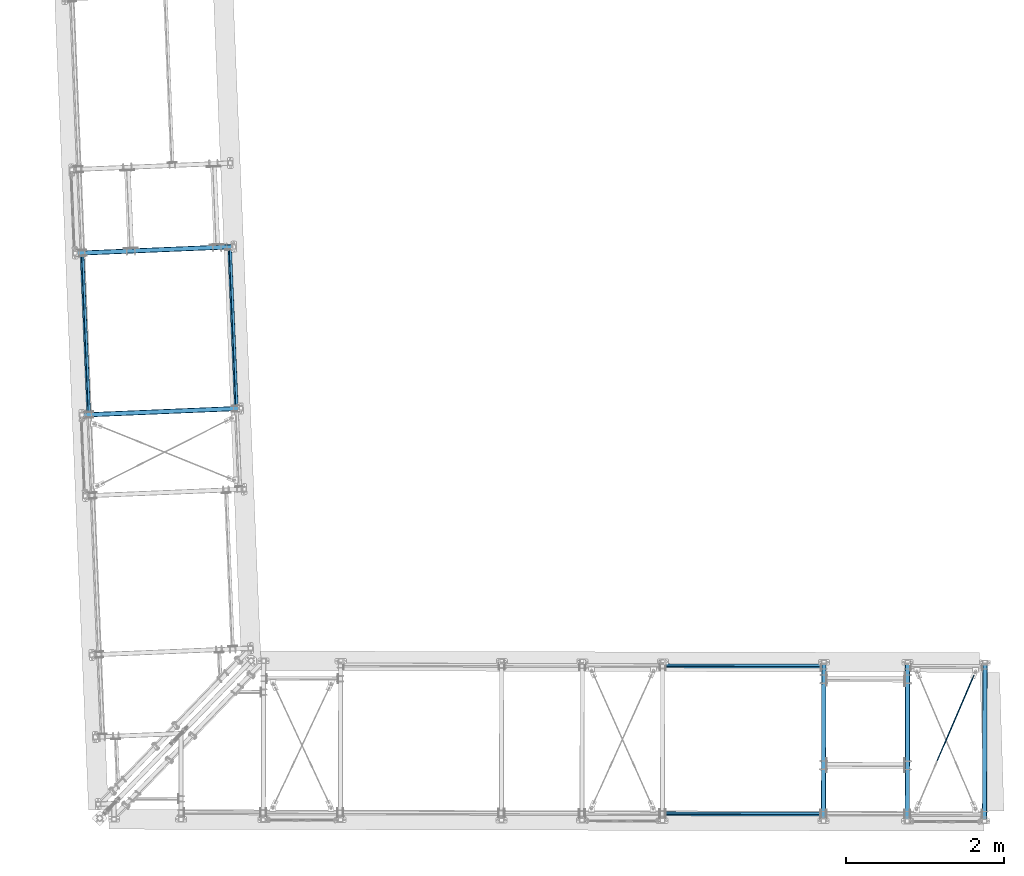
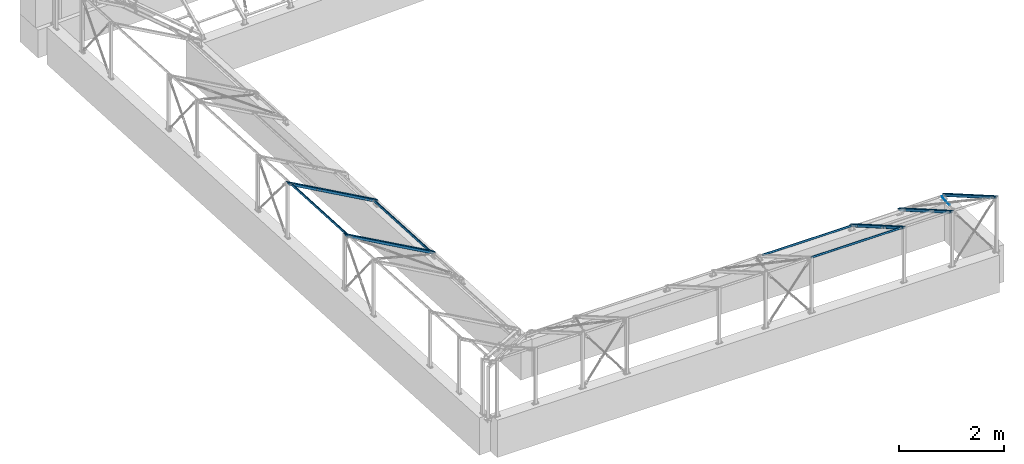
# One storey, part 12 of 288: 8 members, 2 beams, 64 openings.
"""IFC2X3 building model written with IfcOpenShell, lengths in millimetres."""

from ifc_helpers import new_model, entity, si_unit, converted_unit, frame, frame_2d, origin, origin_with_axes, origin_2d, place, context, project, spatial, hollow_rectangle, circle, extrude, clip, halfspace, material, element, save


model = new_model("IFC2X3")

# Units and contexts
model_context = context("Model", 3, precision=1e-09, world=origin_with_axes())
ifc_project = project(units=[si_unit("LENGTHUNIT", "METRE", prefix="MILLI"), si_unit("AREAUNIT", "SQUARE_METRE"), si_unit("VOLUMEUNIT", "CUBIC_METRE"), converted_unit("PLANEANGLEUNIT", "DEGREE", entity("IfcPlaneAngleMeasure", 0.01745329), si_unit("PLANEANGLEUNIT", "RADIAN"), dimensions=[0, 0, 0, 0, 0, 0, 0])], contexts=[model_context])

# Site, building, storey
site_placement = place(None, origin_with_axes())
site = spatial("IfcSite", under=ifc_project, at=site_placement, Name="Remont ?wietlik?w nad MC w NCPP w Opolu", CompositionType="ELEMENT")
building_placement = place(site_placement, origin_with_axes())
building = spatial("IfcBuilding", under=site, at=building_placement, Name="Konstrukcja 1", CompositionType="ELEMENT")
storey_placement = place(building_placement, origin_with_axes())
storey = spatial("IfcBuildingStorey", under=building, at=storey_placement, Name="Default Storey", CompositionType="ELEMENT", Elevation=0.0)

# Member
ifc_material_1 = material(Name="S235")
member_1_placement = place(None, frame((1619.584215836, 5113.592542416, 136.962381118), z_axis=(0.041662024, -0.999131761, -1.7472e-05), x_axis=(0.8652733, 0.036089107, -0.499999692)))
element("IfcMember", 1, at=member_1_placement, inside=storey, material=ifc_material_1, Name="TubeBracing", ObjectType="TubeBracing", context=model_context, shape_type="SweptSolid", body=[
    extrude(hollow_rectangle(XDim=40.0, YDim=40.0, WallThickness=3.0, InnerFilletRadius=3.0, OuterFilletRadius=6.0, at=origin_2d()), origin(), (0.0, 0.0, -1.0), 1970.913964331),
])

# Beam
beam_1_placement = place(None, frame((9020.61862667, 1814.753173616, 138.345494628), z_axis=(0.999997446, -0.002260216, 3.354e-06), x_axis=(0.001959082, 0.866023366, -0.499999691)))
element("IfcBeam", 2, at=beam_1_placement, inside=storey, material=ifc_material_1, Name="TubeBracing", ObjectType="TubeBracing", context=model_context, shape_type="SweptSolid", body=[
    extrude(hollow_rectangle(XDim=40.0, YDim=40.0, WallThickness=3.0, InnerFilletRadius=3.0, OuterFilletRadius=6.0, at=origin_2d()), origin(), (0.0, 0.0, -1.0), 1960.914279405),
])

# Member, openings
member_2_placement = place(None, frame((-492.164486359, 7037.177398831, 1312.426370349), z_axis=(-0.865273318, -0.036088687, 0.499999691), x_axis=(-0.499565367, -0.020835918, -0.866025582)))
member_2 = element("IfcMember", 3, at=member_2_placement, inside=storey, material=ifc_material_1, Name="Horizontal_Beam", ObjectType="Horizontal_Beam", context=model_context, shape_type="Clipping", body=[
    clip(clip(extrude(hollow_rectangle(XDim=60.0, YDim=60.0, WallThickness=3.0, InnerFilletRadius=3.0, OuterFilletRadius=6.0, at=origin_2d()), origin(), (0.0, 0.0, -1.0), 2454.508604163), halfspace(frame((1461.053388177, 7051.573743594, -1561.978022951), z_axis=(-0.500000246, 0.0, 0.866025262), x_axis=(1.22e-07, 1.0, 0.0)), True)), halfspace(frame((581.176641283, 7051.573850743, -1091.480443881), z_axis=(-0.866025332, 1.05e-07, -0.500000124), x_axis=(-1.22e-07, -1.0, 0.0)), True)),
])
opening_1_placement = place(member_2_placement, frame((7.044933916, 26.499732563, -144.777628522), z_axis=(-2.0054e-05, -1.0, 4.2e-07), x_axis=(1.0, -2.0054e-05, 0.0)))
element("IfcOpeningElement", 4, at=opening_1_placement, cuts=member_2, ObjectType="Opening", context=model_context, shape_type="SweptSolid", body=[
    extrude(circle(Radius=7.001, at=frame_2d((-7.001, -4e-09), x_axis=(1.0, 0.0))), origin(), (0.0, 0.0, -1.0), 4.000264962),
])
opening_2_placement = place(member_2_placement, frame((7.043790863, -30.500267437, -144.77760456), z_axis=(-2.0054e-05, -1.0, 4.2e-07), x_axis=(1.0, -2.0054e-05, 0.0)))
element("IfcOpeningElement", 5, at=opening_2_placement, cuts=member_2, ObjectType="Opening", context=model_context, shape_type="SweptSolid", body=[
    extrude(circle(Radius=7.001, at=frame_2d((-7.001, -4e-09), x_axis=(1.0, 0.0))), origin(), (0.0, 0.0, -1.0), 4.000264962),
])
opening_3_placement = place(member_2_placement, frame((7.044933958, 26.499732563, -224.777628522), z_axis=(-2.0054e-05, -1.0, 4.2e-07), x_axis=(1.0, -2.0054e-05, 0.0)))
element("IfcOpeningElement", 6, at=opening_3_placement, cuts=member_2, ObjectType="Opening", context=model_context, shape_type="SweptSolid", body=[
    extrude(circle(Radius=7.001, at=frame_2d((-7.001, -4e-09), x_axis=(1.0, 0.0))), origin(), (0.0, 0.0, -1.0), 4.000264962),
])
opening_4_placement = place(member_2_placement, frame((7.043790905, -30.500267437, -224.77760456), z_axis=(-2.0054e-05, -1.0, 4.2e-07), x_axis=(1.0, -2.0054e-05, 0.0)))
element("IfcOpeningElement", 7, at=opening_4_placement, cuts=member_2, ObjectType="Opening", context=model_context, shape_type="SweptSolid", body=[
    extrude(circle(Radius=7.001, at=frame_2d((-7.001, -4e-09), x_axis=(1.0, 0.0))), origin(), (0.0, 0.0, -1.0), 4.000264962),
])
opening_5_placement = place(member_2_placement, frame((0.063877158, -26.5, -847.814195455), z_axis=(0.0, 1.0, 0.0), x_axis=(-1.0, 0.0, 0.0)))
element("IfcOpeningElement", 8, at=opening_5_placement, cuts=member_2, ObjectType="Opening", context=model_context, shape_type="SweptSolid", body=[
    extrude(circle(Radius=9.001, at=frame_2d((0.0, 9.001), x_axis=(1.0, 0.0))), origin(), (0.0, 0.0, -1.0), 4.0),
])
opening_6_placement = place(member_2_placement, frame((0.063877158, -26.5, -967.814195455), z_axis=(0.0, 1.0, 0.0), x_axis=(-1.0, 0.0, 0.0)))
element("IfcOpeningElement", 9, at=opening_6_placement, cuts=member_2, ObjectType="Opening", context=model_context, shape_type="SweptSolid", body=[
    extrude(circle(Radius=9.001, at=frame_2d((0.0, 9.001), x_axis=(1.0, 0.0))), origin(), (0.0, 0.0, -1.0), 4.0),
])
opening_7_placement = place(member_2_placement, frame((0.063877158, 30.5, -847.814195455), z_axis=(0.0, 1.0, 0.0), x_axis=(-1.0, 0.0, 0.0)))
element("IfcOpeningElement", 10, at=opening_7_placement, cuts=member_2, ObjectType="Opening", context=model_context, shape_type="SweptSolid", body=[
    extrude(circle(Radius=9.001, at=frame_2d((0.0, 9.001), x_axis=(1.0, 0.0))), origin(), (0.0, 0.0, -1.0), 4.0),
])
opening_8_placement = place(member_2_placement, frame((0.063877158, 30.5, -967.814195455), z_axis=(0.0, 1.0, 0.0), x_axis=(-1.0, 0.0, 0.0)))
element("IfcOpeningElement", 11, at=opening_8_placement, cuts=member_2, ObjectType="Opening", context=model_context, shape_type="SweptSolid", body=[
    extrude(circle(Radius=9.001, at=frame_2d((0.0, 9.001), x_axis=(1.0, 0.0))), origin(), (0.0, 0.0, -1.0), 4.0),
])
opening_9_placement = place(member_2_placement, frame((0.044184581, 30.5, -2158.813195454), z_axis=(0.0, -1.0, 0.0), x_axis=(0.0, 0.0, 1.0)))
element("IfcOpeningElement", 12, at=opening_9_placement, cuts=member_2, ObjectType="Opening", context=model_context, shape_type="SweptSolid", body=[
    extrude(circle(Radius=9.001, at=frame_2d((60.0, 0.0), x_axis=(1.0, 0.0))), origin(), (0.0, 0.0, 1.0), 4.0),
])
opening_10_placement = place(member_2_placement, frame((0.044184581, 30.5, -2158.813195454), z_axis=(0.0, -1.0, 0.0), x_axis=(0.0, 0.0, 1.0)))
element("IfcOpeningElement", 13, at=opening_10_placement, cuts=member_2, ObjectType="Opening", context=model_context, shape_type="SweptSolid", body=[
    extrude(circle(Radius=9.001, at=frame_2d((-60.0, 0.0), x_axis=(1.0, 0.0))), origin(), (0.0, 0.0, 1.0), 4.0),
])
opening_11_placement = place(member_2_placement, frame((0.044184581, -26.5, -2158.813195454), z_axis=(0.0, -1.0, 0.0), x_axis=(0.0, 0.0, 1.0)))
element("IfcOpeningElement", 14, at=opening_11_placement, cuts=member_2, ObjectType="Opening", context=model_context, shape_type="SweptSolid", body=[
    extrude(circle(Radius=9.001, at=frame_2d((60.0, 0.0), x_axis=(1.0, 0.0))), origin(), (0.0, 0.0, 1.0), 4.0),
])
opening_12_placement = place(member_2_placement, frame((0.044184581, -26.5, -2158.813195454), z_axis=(0.0, -1.0, 0.0), x_axis=(0.0, 0.0, 1.0)))
element("IfcOpeningElement", 15, at=opening_12_placement, cuts=member_2, ObjectType="Opening", context=model_context, shape_type="SweptSolid", body=[
    extrude(circle(Radius=9.001, at=frame_2d((-60.0, 0.0), x_axis=(1.0, 0.0))), origin(), (0.0, 0.0, 1.0), 4.0),
])
opening_13_placement = place(member_2_placement, frame((3.04424477, 26.5, -2312.551958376), z_axis=(0.0, -1.0, 0.0), x_axis=(1.0, 0.0, 0.0)))
element("IfcOpeningElement", 16, at=opening_13_placement, cuts=member_2, ObjectType="Opening", context=model_context, shape_type="SweptSolid", body=[
    extrude(circle(Radius=7.001, at=frame_2d((0.0, 7.001), x_axis=(1.0, 0.0))), origin(), (0.0, 0.0, -1.0), 4.0),
])
opening_14_placement = place(member_2_placement, frame((3.04424477, 26.5, -2392.551958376), z_axis=(0.0, -1.0, 0.0), x_axis=(1.0, 0.0, 0.0)))
element("IfcOpeningElement", 17, at=opening_14_placement, cuts=member_2, ObjectType="Opening", context=model_context, shape_type="SweptSolid", body=[
    extrude(circle(Radius=7.001, at=frame_2d((0.0, 7.001), x_axis=(1.0, 0.0))), origin(), (0.0, 0.0, -1.0), 4.0),
])
opening_15_placement = place(member_2_placement, frame((3.04424477, -30.5, -2312.551958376), z_axis=(0.0, -1.0, 0.0), x_axis=(1.0, 0.0, 0.0)))
element("IfcOpeningElement", 18, at=opening_15_placement, cuts=member_2, ObjectType="Opening", context=model_context, shape_type="SweptSolid", body=[
    extrude(circle(Radius=7.001, at=frame_2d((0.0, 7.001), x_axis=(1.0, 0.0))), origin(), (0.0, 0.0, -1.0), 4.0),
])
opening_16_placement = place(member_2_placement, frame((3.04424477, -30.5, -2392.551958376), z_axis=(0.0, -1.0, 0.0), x_axis=(1.0, 0.0, 0.0)))
element("IfcOpeningElement", 19, at=opening_16_placement, cuts=member_2, ObjectType="Opening", context=model_context, shape_type="SweptSolid", body=[
    extrude(circle(Radius=7.001, at=frame_2d((0.0, 7.001), x_axis=(1.0, 0.0))), origin(), (0.0, 0.0, -1.0), 4.0),
])

member_3_placement = place(None, frame((-406.757648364, 4990.044254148, 1312.426370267), z_axis=(-0.865273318, -0.036088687, 0.499999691), x_axis=(-0.499565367, -0.020835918, -0.866025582)))
member_3 = element("IfcMember", 20, at=member_3_placement, inside=storey, material=ifc_material_1, Name="Horizontal_Beam", ObjectType="Horizontal_Beam", context=model_context, shape_type="Clipping", body=[
    clip(clip(extrude(hollow_rectangle(XDim=60.0, YDim=60.0, WallThickness=3.0, InnerFilletRadius=3.0, OuterFilletRadius=6.0, at=origin_2d()), origin(), (0.0, 0.0, -1.0), 2454.508604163), halfspace(frame((581.170066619, 5002.659884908, -1091.4694884), z_axis=(-0.866025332, 1.05e-07, -0.500000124), x_axis=(-1.22e-07, -1.0, 0.0)), True)), halfspace(frame((1461.072113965, 5002.659777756, -1561.96706755), z_axis=(-0.500000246, 0.0, 0.866025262), x_axis=(1.22e-07, 1.0, 0.0)), True)),
])
opening_17_placement = place(member_3_placement, frame((3.044244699, 26.5, -2312.551958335), z_axis=(0.0, -1.0, 0.0), x_axis=(1.0, 0.0, 0.0)))
element("IfcOpeningElement", 21, at=opening_17_placement, cuts=member_3, ObjectType="Opening", context=model_context, shape_type="SweptSolid", body=[
    extrude(circle(Radius=7.001, at=frame_2d((0.0, 7.001), x_axis=(1.0, 0.0))), origin(), (0.0, 0.0, -1.0), 4.0),
])
opening_18_placement = place(member_3_placement, frame((3.044244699, 26.5, -2392.551958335), z_axis=(0.0, -1.0, 0.0), x_axis=(1.0, 0.0, 0.0)))
element("IfcOpeningElement", 22, at=opening_18_placement, cuts=member_3, ObjectType="Opening", context=model_context, shape_type="SweptSolid", body=[
    extrude(circle(Radius=7.001, at=frame_2d((0.0, 7.001), x_axis=(1.0, 0.0))), origin(), (0.0, 0.0, -1.0), 4.0),
])
opening_19_placement = place(member_3_placement, frame((3.044244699, -30.5, -2312.551958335), z_axis=(0.0, -1.0, 0.0), x_axis=(1.0, 0.0, 0.0)))
element("IfcOpeningElement", 23, at=opening_19_placement, cuts=member_3, ObjectType="Opening", context=model_context, shape_type="SweptSolid", body=[
    extrude(circle(Radius=7.001, at=frame_2d((0.0, 7.001), x_axis=(1.0, 0.0))), origin(), (0.0, 0.0, -1.0), 4.0),
])
opening_20_placement = place(member_3_placement, frame((3.044244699, -30.5, -2392.551958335), z_axis=(0.0, -1.0, 0.0), x_axis=(1.0, 0.0, 0.0)))
element("IfcOpeningElement", 24, at=opening_20_placement, cuts=member_3, ObjectType="Opening", context=model_context, shape_type="SweptSolid", body=[
    extrude(circle(Radius=7.001, at=frame_2d((0.0, 7.001), x_axis=(1.0, 0.0))), origin(), (0.0, 0.0, -1.0), 4.0),
])
opening_21_placement = place(member_3_placement, frame((7.044933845, 26.499732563, -144.777628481), z_axis=(-2.0054e-05, -1.0, 4.2e-07), x_axis=(1.0, -2.0054e-05, 0.0)))
element("IfcOpeningElement", 25, at=opening_21_placement, cuts=member_3, ObjectType="Opening", context=model_context, shape_type="SweptSolid", body=[
    extrude(circle(Radius=7.001, at=frame_2d((-7.001, -4e-09), x_axis=(1.0, 0.0))), origin(), (0.0, 0.0, -1.0), 4.000264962),
])
opening_22_placement = place(member_3_placement, frame((7.043790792, -30.500267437, -144.777604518), z_axis=(-2.0054e-05, -1.0, 4.2e-07), x_axis=(1.0, -2.0054e-05, 0.0)))
element("IfcOpeningElement", 26, at=opening_22_placement, cuts=member_3, ObjectType="Opening", context=model_context, shape_type="SweptSolid", body=[
    extrude(circle(Radius=7.001, at=frame_2d((-7.001, -4e-09), x_axis=(1.0, 0.0))), origin(), (0.0, 0.0, -1.0), 4.000264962),
])
opening_23_placement = place(member_3_placement, frame((7.044933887, 26.499732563, -224.777628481), z_axis=(-2.0054e-05, -1.0, 4.2e-07), x_axis=(1.0, -2.0054e-05, 0.0)))
element("IfcOpeningElement", 27, at=opening_23_placement, cuts=member_3, ObjectType="Opening", context=model_context, shape_type="SweptSolid", body=[
    extrude(circle(Radius=7.001, at=frame_2d((-7.001, -4e-09), x_axis=(1.0, 0.0))), origin(), (0.0, 0.0, -1.0), 4.000264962),
])
opening_24_placement = place(member_3_placement, frame((7.043790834, -30.500267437, -224.777604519), z_axis=(-2.0054e-05, -1.0, 4.2e-07), x_axis=(1.0, -2.0054e-05, 0.0)))
element("IfcOpeningElement", 28, at=opening_24_placement, cuts=member_3, ObjectType="Opening", context=model_context, shape_type="SweptSolid", body=[
    extrude(circle(Radius=7.001, at=frame_2d((-7.001, -4e-09), x_axis=(1.0, 0.0))), origin(), (0.0, 0.0, -1.0), 4.000264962),
])

member_4_placement = place(None, frame((9055.018282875, -218.898947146, 1312.426370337), z_axis=(-0.001959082, -0.866023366, 0.499999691), x_axis=(-0.001130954, -0.499998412, -0.866025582)))
member_4 = element("IfcMember", 29, at=member_4_placement, inside=storey, material=ifc_material_1, Name="Horizontal_Beam", ObjectType="Horizontal_Beam", context=model_context, shape_type="Clipping", body=[
    clip(clip(extrude(hollow_rectangle(XDim=60.0, YDim=60.0, WallThickness=3.0, InnerFilletRadius=3.0, OuterFilletRadius=6.0, at=origin_2d()), origin(), (0.0, 0.0, -1.0), 2454.508604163), halfspace(frame((1461.105317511, -9055.490474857, -1561.946909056), z_axis=(-0.500000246, 0.0, 0.866025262), x_axis=(1.22e-07, 1.0, 0.0)), True)), halfspace(frame((581.15671618, -9055.490367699, -1091.44932998), z_axis=(-0.866025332, 1.05e-07, -0.500000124), x_axis=(-1.22e-07, -1.0, 0.0)), True)),
])
opening_25_placement = place(member_4_placement, frame((-0.000146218, 26.5, -151.853792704), z_axis=(0.0, -1.0, 0.0), x_axis=(1.0, 0.0, 0.0)))
element("IfcOpeningElement", 30, at=opening_25_placement, cuts=member_4, ObjectType="Opening", context=model_context, shape_type="SweptSolid", body=[
    extrude(circle(Radius=7.001, at=frame_2d((0.0, 7.001), x_axis=(1.0, 0.0))), origin(), (0.0, 0.0, -1.0), 4.0),
])
opening_26_placement = place(member_4_placement, frame((-0.000146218, 26.5, -231.853792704), z_axis=(0.0, -1.0, 0.0), x_axis=(1.0, 0.0, 0.0)))
element("IfcOpeningElement", 31, at=opening_26_placement, cuts=member_4, ObjectType="Opening", context=model_context, shape_type="SweptSolid", body=[
    extrude(circle(Radius=7.001, at=frame_2d((0.0, 7.001), x_axis=(1.0, 0.0))), origin(), (0.0, 0.0, -1.0), 4.0),
])
opening_27_placement = place(member_4_placement, frame((-0.000146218, -30.5, -151.853792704), z_axis=(0.0, -1.0, 0.0), x_axis=(1.0, 0.0, 0.0)))
element("IfcOpeningElement", 32, at=opening_27_placement, cuts=member_4, ObjectType="Opening", context=model_context, shape_type="SweptSolid", body=[
    extrude(circle(Radius=7.001, at=frame_2d((0.0, 7.001), x_axis=(1.0, 0.0))), origin(), (0.0, 0.0, -1.0), 4.0),
])
opening_28_placement = place(member_4_placement, frame((-0.000146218, -30.5, -231.853792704), z_axis=(0.0, -1.0, 0.0), x_axis=(1.0, 0.0, 0.0)))
element("IfcOpeningElement", 33, at=opening_28_placement, cuts=member_4, ObjectType="Opening", context=model_context, shape_type="SweptSolid", body=[
    extrude(circle(Radius=7.001, at=frame_2d((0.0, 7.001), x_axis=(1.0, 0.0))), origin(), (0.0, 0.0, -1.0), 4.0),
])
opening_29_placement = place(member_4_placement, frame((-0.000146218, 26.5, -2315.163938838), z_axis=(0.0, -1.0, 0.0), x_axis=(1.0, 0.0, 0.0)))
element("IfcOpeningElement", 34, at=opening_29_placement, cuts=member_4, ObjectType="Opening", context=model_context, shape_type="SweptSolid", body=[
    extrude(circle(Radius=7.001, at=frame_2d((0.0, 7.001), x_axis=(1.0, 0.0))), origin(), (0.0, 0.0, -1.0), 4.0),
])
opening_30_placement = place(member_4_placement, frame((-0.000146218, 26.5, -2395.163938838), z_axis=(0.0, -1.0, 0.0), x_axis=(1.0, 0.0, 0.0)))
element("IfcOpeningElement", 35, at=opening_30_placement, cuts=member_4, ObjectType="Opening", context=model_context, shape_type="SweptSolid", body=[
    extrude(circle(Radius=7.001, at=frame_2d((0.0, 7.001), x_axis=(1.0, 0.0))), origin(), (0.0, 0.0, -1.0), 4.0),
])
opening_31_placement = place(member_4_placement, frame((-0.000146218, -30.5, -2315.163938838), z_axis=(0.0, -1.0, 0.0), x_axis=(1.0, 0.0, 0.0)))
element("IfcOpeningElement", 36, at=opening_31_placement, cuts=member_4, ObjectType="Opening", context=model_context, shape_type="SweptSolid", body=[
    extrude(circle(Radius=7.001, at=frame_2d((0.0, 7.001), x_axis=(1.0, 0.0))), origin(), (0.0, 0.0, -1.0), 4.0),
])
opening_32_placement = place(member_4_placement, frame((-0.000146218, -30.5, -2395.163938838), z_axis=(0.0, -1.0, 0.0), x_axis=(1.0, 0.0, 0.0)))
element("IfcOpeningElement", 37, at=opening_32_placement, cuts=member_4, ObjectType="Opening", context=model_context, shape_type="SweptSolid", body=[
    extrude(circle(Radius=7.001, at=frame_2d((0.0, 7.001), x_axis=(1.0, 0.0))), origin(), (0.0, 0.0, -1.0), 4.0),
])
opening_33_placement = place(member_4_placement, frame((-0.000146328, 26.5, -847.853792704), z_axis=(0.0, -1.0, 0.0), x_axis=(1.0, 0.0, 0.0)))
element("IfcOpeningElement", 38, at=opening_33_placement, cuts=member_4, ObjectType="Opening", context=model_context, shape_type="SweptSolid", body=[
    extrude(circle(Radius=9.001, at=frame_2d((0.0, 9.001), x_axis=(1.0, 0.0))), origin(), (0.0, 0.0, -1.0), 4.0),
])
opening_34_placement = place(member_4_placement, frame((-0.000146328, 26.5, -967.853792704), z_axis=(0.0, -1.0, 0.0), x_axis=(1.0, 0.0, 0.0)))
element("IfcOpeningElement", 39, at=opening_34_placement, cuts=member_4, ObjectType="Opening", context=model_context, shape_type="SweptSolid", body=[
    extrude(circle(Radius=9.001, at=frame_2d((0.0, 9.001), x_axis=(1.0, 0.0))), origin(), (0.0, 0.0, -1.0), 4.0),
])
opening_35_placement = place(member_4_placement, frame((-0.000146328, -30.5, -847.853792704), z_axis=(0.0, -1.0, 0.0), x_axis=(1.0, 0.0, 0.0)))
element("IfcOpeningElement", 40, at=opening_35_placement, cuts=member_4, ObjectType="Opening", context=model_context, shape_type="SweptSolid", body=[
    extrude(circle(Radius=9.001, at=frame_2d((0.0, 9.001), x_axis=(1.0, 0.0))), origin(), (0.0, 0.0, -1.0), 4.0),
])
opening_36_placement = place(member_4_placement, frame((-0.000146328, -30.5, -967.853792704), z_axis=(0.0, -1.0, 0.0), x_axis=(1.0, 0.0, 0.0)))
element("IfcOpeningElement", 41, at=opening_36_placement, cuts=member_4, ObjectType="Opening", context=model_context, shape_type="SweptSolid", body=[
    extrude(circle(Radius=9.001, at=frame_2d((0.0, 9.001), x_axis=(1.0, 0.0))), origin(), (0.0, 0.0, -1.0), 4.0),
])
opening_37_placement = place(member_4_placement, frame((-0.000146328, 26.5, -2107.853792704), z_axis=(0.0, -1.0, 0.0), x_axis=(1.0, 0.0, 0.0)))
element("IfcOpeningElement", 42, at=opening_37_placement, cuts=member_4, ObjectType="Opening", context=model_context, shape_type="SweptSolid", body=[
    extrude(circle(Radius=9.001, at=frame_2d((0.0, 9.001), x_axis=(1.0, 0.0))), origin(), (0.0, 0.0, -1.0), 4.0),
])
opening_38_placement = place(member_4_placement, frame((-0.000146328, 26.5, -2227.853792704), z_axis=(0.0, -1.0, 0.0), x_axis=(1.0, 0.0, 0.0)))
element("IfcOpeningElement", 43, at=opening_38_placement, cuts=member_4, ObjectType="Opening", context=model_context, shape_type="SweptSolid", body=[
    extrude(circle(Radius=9.001, at=frame_2d((0.0, 9.001), x_axis=(1.0, 0.0))), origin(), (0.0, 0.0, -1.0), 4.0),
])
opening_39_placement = place(member_4_placement, frame((-0.000146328, -30.5, -2107.853792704), z_axis=(0.0, -1.0, 0.0), x_axis=(1.0, 0.0, 0.0)))
element("IfcOpeningElement", 44, at=opening_39_placement, cuts=member_4, ObjectType="Opening", context=model_context, shape_type="SweptSolid", body=[
    extrude(circle(Radius=9.001, at=frame_2d((0.0, 9.001), x_axis=(1.0, 0.0))), origin(), (0.0, 0.0, -1.0), 4.0),
])
opening_40_placement = place(member_4_placement, frame((-0.000146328, -30.5, -2227.853792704), z_axis=(0.0, -1.0, 0.0), x_axis=(1.0, 0.0, 0.0)))
element("IfcOpeningElement", 45, at=opening_40_placement, cuts=member_4, ObjectType="Opening", context=model_context, shape_type="SweptSolid", body=[
    extrude(circle(Radius=9.001, at=frame_2d((0.0, 9.001), x_axis=(1.0, 0.0))), origin(), (0.0, 0.0, -1.0), 4.0),
])

member_5_placement = place(None, frame((10115.015571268, -221.296570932, 1312.426370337), z_axis=(-0.001959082, -0.866023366, 0.499999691), x_axis=(-0.001130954, -0.499998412, -0.866025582)))
member_5 = element("IfcMember", 46, at=member_5_placement, inside=storey, material=ifc_material_1, Name="Horizontal_Beam", ObjectType="Horizontal_Beam", context=model_context, shape_type="Clipping", body=[
    clip(clip(extrude(hollow_rectangle(XDim=60.0, YDim=60.0, WallThickness=3.0, InnerFilletRadius=3.0, OuterFilletRadius=6.0, at=origin_2d()), origin(), (0.0, 0.0, -1.0), 2454.508604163), halfspace(frame((1461.105382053, -10115.490474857, -1561.946797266), z_axis=(-0.500000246, 0.0, 0.866025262), x_axis=(1.22e-07, 1.0, 0.0)), True)), halfspace(frame((581.156522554, -10115.490367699, -1091.449218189), z_axis=(-0.866025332, 1.05e-07, -0.500000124), x_axis=(-1.22e-07, -1.0, 0.0)), True)),
])
opening_41_placement = place(member_5_placement, frame((-1.267996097, 30.520143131, -898.850466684), z_axis=(0.002261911, -0.999997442, -3.751e-06), x_axis=(0.0, -3.751e-06, 1.0)))
element("IfcOpeningElement", 47, at=opening_41_placement, cuts=member_5, ObjectType="Opening", context=model_context, shape_type="SweptSolid", body=[
    extrude(circle(Radius=9.001, at=frame_2d((60.0, 0.0), x_axis=(1.0, 0.0))), origin(), (0.0, 0.0, 1.0), 4.038960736),
])
opening_42_placement = place(member_5_placement, frame((-1.267996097, 30.520143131, -898.850466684), z_axis=(0.002261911, -0.999997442, -3.751e-06), x_axis=(0.0, -3.751e-06, 1.0)))
element("IfcOpeningElement", 48, at=opening_42_placement, cuts=member_5, ObjectType="Opening", context=model_context, shape_type="SweptSolid", body=[
    extrude(circle(Radius=9.001, at=frame_2d((-60.0, 0.0), x_axis=(1.0, 0.0))), origin(), (0.0, 0.0, 1.0), 4.038960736),
])
opening_43_placement = place(member_5_placement, frame((-1.139066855, -26.479856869, -898.850680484), z_axis=(0.002261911, -0.999997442, -3.751e-06), x_axis=(0.0, -3.751e-06, 1.0)))
element("IfcOpeningElement", 49, at=opening_43_placement, cuts=member_5, ObjectType="Opening", context=model_context, shape_type="SweptSolid", body=[
    extrude(circle(Radius=9.001, at=frame_2d((60.0, 0.0), x_axis=(1.0, 0.0))), origin(), (0.0, 0.0, 1.0), 4.038960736),
])
opening_44_placement = place(member_5_placement, frame((-1.139066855, -26.479856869, -898.850680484), z_axis=(0.002261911, -0.999997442, -3.751e-06), x_axis=(0.0, -3.751e-06, 1.0)))
element("IfcOpeningElement", 50, at=opening_44_placement, cuts=member_5, ObjectType="Opening", context=model_context, shape_type="SweptSolid", body=[
    extrude(circle(Radius=9.001, at=frame_2d((-60.0, 0.0), x_axis=(1.0, 0.0))), origin(), (0.0, 0.0, 1.0), 4.038960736),
])
opening_45_placement = place(member_5_placement, frame((-1.267996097, 30.520143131, -2158.850466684), z_axis=(0.002261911, -0.999997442, -3.751e-06), x_axis=(0.0, -3.751e-06, 1.0)))
element("IfcOpeningElement", 51, at=opening_45_placement, cuts=member_5, ObjectType="Opening", context=model_context, shape_type="SweptSolid", body=[
    extrude(circle(Radius=9.001, at=frame_2d((60.0, 0.0), x_axis=(1.0, 0.0))), origin(), (0.0, 0.0, 1.0), 4.038960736),
])
opening_46_placement = place(member_5_placement, frame((-1.267996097, 30.520143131, -2158.850466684), z_axis=(0.002261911, -0.999997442, -3.751e-06), x_axis=(0.0, -3.751e-06, 1.0)))
element("IfcOpeningElement", 52, at=opening_46_placement, cuts=member_5, ObjectType="Opening", context=model_context, shape_type="SweptSolid", body=[
    extrude(circle(Radius=9.001, at=frame_2d((-60.0, 0.0), x_axis=(1.0, 0.0))), origin(), (0.0, 0.0, 1.0), 4.038960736),
])
opening_47_placement = place(member_5_placement, frame((-1.139066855, -26.479856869, -2158.850680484), z_axis=(0.002261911, -0.999997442, -3.751e-06), x_axis=(0.0, -3.751e-06, 1.0)))
element("IfcOpeningElement", 53, at=opening_47_placement, cuts=member_5, ObjectType="Opening", context=model_context, shape_type="SweptSolid", body=[
    extrude(circle(Radius=9.001, at=frame_2d((60.0, 0.0), x_axis=(1.0, 0.0))), origin(), (0.0, 0.0, 1.0), 4.038960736),
])
opening_48_placement = place(member_5_placement, frame((-1.139066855, -26.479856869, -2158.850680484), z_axis=(0.002261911, -0.999997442, -3.751e-06), x_axis=(0.0, -3.751e-06, 1.0)))
element("IfcOpeningElement", 54, at=opening_48_placement, cuts=member_5, ObjectType="Opening", context=model_context, shape_type="SweptSolid", body=[
    extrude(circle(Radius=9.001, at=frame_2d((-60.0, 0.0), x_axis=(1.0, 0.0))), origin(), (0.0, 0.0, 1.0), 4.038960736),
])
opening_49_placement = place(member_5_placement, frame((-0.000146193, 30.5, -184.886983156), z_axis=(0.0, -1.0, 0.0), x_axis=(0.0, 0.0, 1.0)))
element("IfcOpeningElement", 55, at=opening_49_placement, cuts=member_5, ObjectType="Opening", context=model_context, shape_type="SweptSolid", body=[
    extrude(circle(Radius=7.001, at=frame_2d((40.0, 0.0), x_axis=(1.0, 0.0))), origin(), (0.0, 0.0, 1.0), 4.0),
])
opening_50_placement = place(member_5_placement, frame((-0.000146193, 30.5, -184.886983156), z_axis=(0.0, -1.0, 0.0), x_axis=(0.0, 0.0, 1.0)))
element("IfcOpeningElement", 56, at=opening_50_placement, cuts=member_5, ObjectType="Opening", context=model_context, shape_type="SweptSolid", body=[
    extrude(circle(Radius=7.001, at=frame_2d((-40.0, 0.0), x_axis=(1.0, 0.0))), origin(), (0.0, 0.0, 1.0), 4.0),
])
opening_51_placement = place(member_5_placement, frame((-0.000146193, -26.5, -184.886983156), z_axis=(0.0, -1.0, 0.0), x_axis=(0.0, 0.0, 1.0)))
element("IfcOpeningElement", 57, at=opening_51_placement, cuts=member_5, ObjectType="Opening", context=model_context, shape_type="SweptSolid", body=[
    extrude(circle(Radius=7.001, at=frame_2d((40.0, 0.0), x_axis=(1.0, 0.0))), origin(), (0.0, 0.0, 1.0), 4.0),
])
opening_52_placement = place(member_5_placement, frame((-0.000146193, -26.5, -184.886983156), z_axis=(0.0, -1.0, 0.0), x_axis=(0.0, 0.0, 1.0)))
element("IfcOpeningElement", 58, at=opening_52_placement, cuts=member_5, ObjectType="Opening", context=model_context, shape_type="SweptSolid", body=[
    extrude(circle(Radius=7.001, at=frame_2d((-40.0, 0.0), x_axis=(1.0, 0.0))), origin(), (0.0, 0.0, 1.0), 4.0),
])
opening_53_placement = place(member_5_placement, frame((-0.000146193, 30.5, -2348.19712929), z_axis=(0.0, -1.0, 0.0), x_axis=(0.0, 0.0, 1.0)))
element("IfcOpeningElement", 59, at=opening_53_placement, cuts=member_5, ObjectType="Opening", context=model_context, shape_type="SweptSolid", body=[
    extrude(circle(Radius=7.001, at=frame_2d((40.0, 0.0), x_axis=(1.0, 0.0))), origin(), (0.0, 0.0, 1.0), 4.0),
])
opening_54_placement = place(member_5_placement, frame((-0.000146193, 30.5, -2348.19712929), z_axis=(0.0, -1.0, 0.0), x_axis=(0.0, 0.0, 1.0)))
element("IfcOpeningElement", 60, at=opening_54_placement, cuts=member_5, ObjectType="Opening", context=model_context, shape_type="SweptSolid", body=[
    extrude(circle(Radius=7.001, at=frame_2d((-40.0, 0.0), x_axis=(1.0, 0.0))), origin(), (0.0, 0.0, 1.0), 4.0),
])
opening_55_placement = place(member_5_placement, frame((-0.000146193, -26.5, -2348.19712929), z_axis=(0.0, -1.0, 0.0), x_axis=(0.0, 0.0, 1.0)))
element("IfcOpeningElement", 61, at=opening_55_placement, cuts=member_5, ObjectType="Opening", context=model_context, shape_type="SweptSolid", body=[
    extrude(circle(Radius=7.001, at=frame_2d((40.0, 0.0), x_axis=(1.0, 0.0))), origin(), (0.0, 0.0, 1.0), 4.0),
])
opening_56_placement = place(member_5_placement, frame((-0.000146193, -26.5, -2348.19712929), z_axis=(0.0, -1.0, 0.0), x_axis=(0.0, 0.0, 1.0)))
element("IfcOpeningElement", 62, at=opening_56_placement, cuts=member_5, ObjectType="Opening", context=model_context, shape_type="SweptSolid", body=[
    extrude(circle(Radius=7.001, at=frame_2d((-40.0, 0.0), x_axis=(1.0, 0.0))), origin(), (0.0, 0.0, 1.0), 4.0),
])

member_6_placement = place(None, frame((11093.927381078, -223.495490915, 1312.426370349), z_axis=(-0.001959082, -0.866023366, 0.499999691), x_axis=(-0.001130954, -0.499998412, -0.866025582)))
member_6 = element("IfcMember", 63, at=member_6_placement, inside=storey, material=ifc_material_1, Name="Horizontal_Beam", ObjectType="Horizontal_Beam", context=model_context, shape_type="Clipping", body=[
    clip(clip(extrude(hollow_rectangle(XDim=60.0, YDim=60.0, WallThickness=3.0, InnerFilletRadius=3.0, OuterFilletRadius=6.0, at=origin_2d()), origin(), (0.0, 0.0, -1.0), 2454.508604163), halfspace(frame((1461.116913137, -11094.404754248, -1561.940070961), z_axis=(-0.500000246, 0.0, 0.866025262), x_axis=(1.22e-07, 1.0, 0.0)), True)), halfspace(frame((581.152519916, -11094.404647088, -1091.442491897), z_axis=(-0.866025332, 1.05e-07, -0.500000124), x_axis=(-1.22e-07, -1.0, 0.0)), True)),
])
opening_57_placement = place(member_6_placement, frame((-0.000146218, 26.5, -2315.198129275), z_axis=(0.0, -1.0, 0.0), x_axis=(1.0, 0.0, 0.0)))
element("IfcOpeningElement", 64, at=opening_57_placement, cuts=member_6, ObjectType="Opening", context=model_context, shape_type="SweptSolid", body=[
    extrude(circle(Radius=7.001, at=frame_2d((0.0, 7.001), x_axis=(1.0, 0.0))), origin(), (0.0, 0.0, -1.0), 4.0),
])
opening_58_placement = place(member_6_placement, frame((-0.000146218, 26.5, -2395.198129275), z_axis=(0.0, -1.0, 0.0), x_axis=(1.0, 0.0, 0.0)))
element("IfcOpeningElement", 65, at=opening_58_placement, cuts=member_6, ObjectType="Opening", context=model_context, shape_type="SweptSolid", body=[
    extrude(circle(Radius=7.001, at=frame_2d((0.0, 7.001), x_axis=(1.0, 0.0))), origin(), (0.0, 0.0, -1.0), 4.0),
])
opening_59_placement = place(member_6_placement, frame((-0.000146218, -30.5, -2315.198129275), z_axis=(0.0, -1.0, 0.0), x_axis=(1.0, 0.0, 0.0)))
element("IfcOpeningElement", 66, at=opening_59_placement, cuts=member_6, ObjectType="Opening", context=model_context, shape_type="SweptSolid", body=[
    extrude(circle(Radius=7.001, at=frame_2d((0.0, 7.001), x_axis=(1.0, 0.0))), origin(), (0.0, 0.0, -1.0), 4.0),
])
opening_60_placement = place(member_6_placement, frame((-0.000146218, -30.5, -2395.198129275), z_axis=(0.0, -1.0, 0.0), x_axis=(1.0, 0.0, 0.0)))
element("IfcOpeningElement", 67, at=opening_60_placement, cuts=member_6, ObjectType="Opening", context=model_context, shape_type="SweptSolid", body=[
    extrude(circle(Radius=7.001, at=frame_2d((0.0, 7.001), x_axis=(1.0, 0.0))), origin(), (0.0, 0.0, -1.0), 4.0),
])
opening_61_placement = place(member_6_placement, frame((-0.000146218, 26.5, -151.887983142), z_axis=(0.0, -1.0, 0.0), x_axis=(1.0, 0.0, 0.0)))
element("IfcOpeningElement", 68, at=opening_61_placement, cuts=member_6, ObjectType="Opening", context=model_context, shape_type="SweptSolid", body=[
    extrude(circle(Radius=7.001, at=frame_2d((0.0, 7.001), x_axis=(1.0, 0.0))), origin(), (0.0, 0.0, -1.0), 4.0),
])
opening_62_placement = place(member_6_placement, frame((-0.000146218, 26.5, -231.887983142), z_axis=(0.0, -1.0, 0.0), x_axis=(1.0, 0.0, 0.0)))
element("IfcOpeningElement", 69, at=opening_62_placement, cuts=member_6, ObjectType="Opening", context=model_context, shape_type="SweptSolid", body=[
    extrude(circle(Radius=7.001, at=frame_2d((0.0, 7.001), x_axis=(1.0, 0.0))), origin(), (0.0, 0.0, -1.0), 4.0),
])
opening_63_placement = place(member_6_placement, frame((-0.000146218, -30.5, -151.887983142), z_axis=(0.0, -1.0, 0.0), x_axis=(1.0, 0.0, 0.0)))
element("IfcOpeningElement", 70, at=opening_63_placement, cuts=member_6, ObjectType="Opening", context=model_context, shape_type="SweptSolid", body=[
    extrude(circle(Radius=7.001, at=frame_2d((0.0, 7.001), x_axis=(1.0, 0.0))), origin(), (0.0, 0.0, -1.0), 4.0),
])
opening_64_placement = place(member_6_placement, frame((-0.000146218, -30.5, -231.887983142), z_axis=(0.0, -1.0, 0.0), x_axis=(1.0, 0.0, 0.0)))
element("IfcOpeningElement", 71, at=opening_64_placement, cuts=member_6, ObjectType="Opening", context=model_context, shape_type="SweptSolid", body=[
    extrude(circle(Radius=7.001, at=frame_2d((0.0, 7.001), x_axis=(1.0, 0.0))), origin(), (0.0, 0.0, -1.0), 4.0),
])

# Member
member_7_placement = place(None, frame((-248.576371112, 5035.675605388, 1219.946394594), z_axis=(0.041662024, -0.999131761, -1.7472e-05), x_axis=(0.8652733, 0.036089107, -0.499999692)))
element("IfcMember", 72, at=member_7_placement, inside=storey, material=ifc_material_1, Name="TubeBracing", ObjectType="TubeBracing", context=model_context, shape_type="SweptSolid", body=[
    extrude(hollow_rectangle(XDim=40.0, YDim=40.0, WallThickness=3.0, InnerFilletRadius=3.0, OuterFilletRadius=6.0, at=origin_2d()), origin(), (0.0, 0.0, -1.0), 1970.913964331),
])

# Beam
beam_2_placement = place(None, frame((9016.380524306, -58.723960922, 1219.999900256), z_axis=(0.999997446, -0.002260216, 3.354e-06), x_axis=(0.001959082, 0.866023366, -0.499999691)))
element("IfcBeam", 73, at=beam_2_placement, inside=storey, material=ifc_material_1, Name="TubeBracing", ObjectType="TubeBracing", context=model_context, shape_type="SweptSolid", body=[
    extrude(hollow_rectangle(XDim=40.0, YDim=40.0, WallThickness=3.0, InnerFilletRadius=3.0, OuterFilletRadius=6.0, at=origin_2d()), origin(), (0.0, 0.0, -1.0), 1960.914279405),
])

# Member
ifc_material_2 = material(Name="S275J2")
member_8_placement = place(None, frame((10468.88829606, 557.474298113, 871.581320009), z_axis=(-0.349036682, -0.811364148, 0.468894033), x_axis=(0.001127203, 0.499998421, 0.866025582)))
element("IfcMember", 74, at=member_8_placement, inside=storey, material=ifc_material_2, Name="Tension_Rod#2", ObjectType="Tension_Rod#2", context=model_context, shape_type="Clipping", body=[
    clip(clip(extrude(circle(Radius=6.0, at=origin_2d()), origin(), (0.0, 0.0, -1.0), 1536.131986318), halfspace(frame((-1045.348551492, 9792.987297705, -33.486281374), z_axis=(0.0, 0.0, -1.0), x_axis=(0.196549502, 0.980493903, 0.0)), True)), halfspace(frame((-1045.348551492, 9792.987297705, -1407.645704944), z_axis=(0.0, 0.0, 1.0), x_axis=(-0.196549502, -0.980493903, 0.0)), True)),
])

save(model, "model.ifc")
